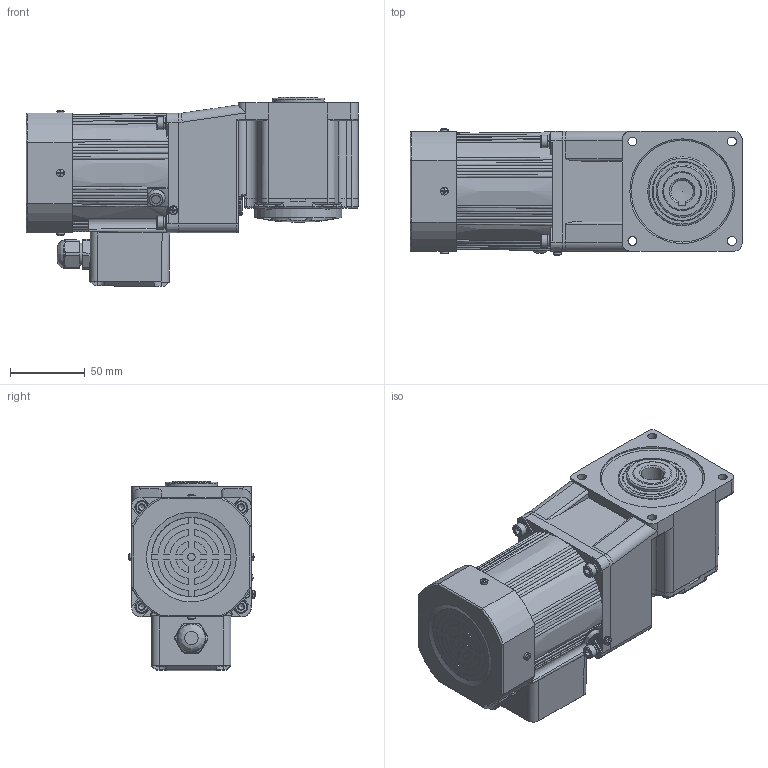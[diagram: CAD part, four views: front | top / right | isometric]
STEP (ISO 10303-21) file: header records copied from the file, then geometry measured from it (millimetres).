
FILE_DESCRIPTION(/* description */ (''),/* implementation_level */ '2;1');
FILE_NAME(/* name */ '80+中空直角-风叶-25-40W 新版常规接线盒.stp',/* time_stamp */ '2025-03-30T13:05:26+08:00',/* author */ (''),/* organization */ (''),/* preprocessor_version */ 'ST-DEVELOPER v18.102',/* originating_system */ 'SIEMENS PLM Software NX 2027',/* authorisation */ '');
FILE_SCHEMA (('AP203_CONFIGURATION_CONTROLLED_3D_DESIGN_OF_MECHANICAL_PARTS_AND_ASSEMBLIES_MIM_LF { 1 0 10303 403 2 1 2}'));
Length unit declared in the file: millimetre
Products named in the file (1): 80+中空直角-风叶-25-40W 新版_
stp_objects
Bounding box: 222 x 84.67 x 126.4 mm (x, y, z)
Volume: 1232399.7 mm3; surface area: 155031.4 mm2
Topology: 18 solids, 18 shells, 1215 faces, 3055 edges, 1919 vertices
Faces by surface type: plane 521, cylinder 319, bspline 159, cone 100, torus 94, sphere 22
Full cylindrical faces by diameter (mm): 2.5 x2, 2.6 x1, 3.2 x1, 3.5 x2, 4.2 x4, 4.4 x1, 4.5 x4, 4.826 x4, 5 x10, 5.1 x5, 5.3 x4, 5.849 x1, 6 x10, 8 x4, 8.5 x4, 9 x5, 10.5 x1, 12 x2, 15 x2, 16 x1, 18 x1, 19 x2, 25 x1, 26 x3, 35 x1, 40 x2, 40.5 x1, 46 x1, 52 x1, 52.5 x1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
Entity records: 41669 total; most frequent: CARTESIAN_POINT 14992, ORIENTED_EDGE 5610, DIRECTION 4869, EDGE_CURVE 2805, AXIS2_PLACEMENT_3D 1909, VERTEX_POINT 1843, EDGE_LOOP 1528, ADVANCED_FACE 1213
